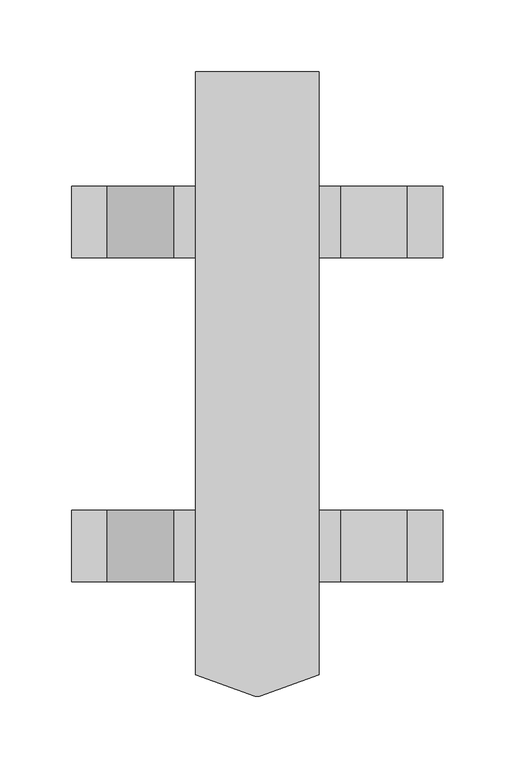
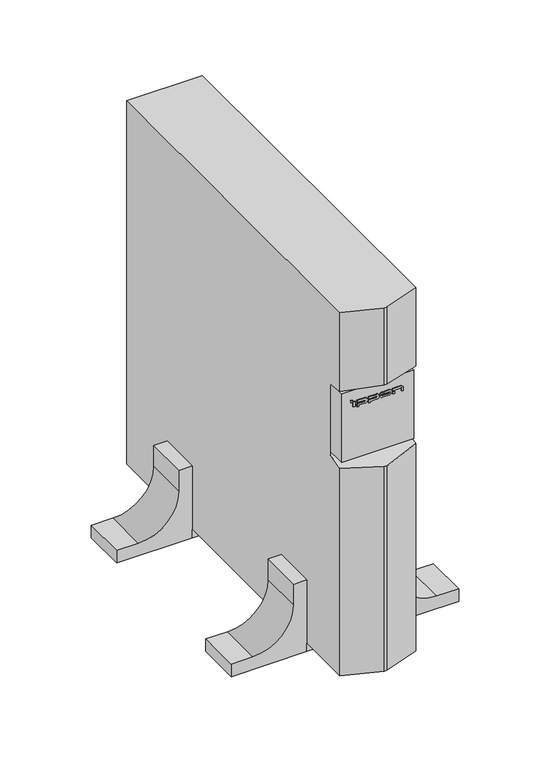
"""IFC4 building model written with IfcOpenShell, lengths in millimetres: proxy geometry, IPPON_EBM_Innova RT_1000_1500-2000_3000ВА : БМ Innova RT 1000 ВА."""

from ifc_helpers import new_model, si_unit, point, frame, frame_2d, origin, origin_with_axes, place, context, project, spatial, polyline, circle_curve, trimmed, segment, composite_curve, outline, extrude, faceted_brep, source, transform, mapped, element, save


def electrical_equipment_5258313d(model_context):
    return source(origin(), model_context, "Body", "SolidModel", [
        extrude(outline(polyline([(-29.1718133, 14.0), (-31.1718133, 14.0), (-31.1718133, 15.0), (-29.1718133, 15.0), (-29.1718133, 14.0)])), frame((0.0, 0.0, 335.7195835), z_axis=(0.0, 0.0, 1.0), x_axis=(1.0, 0.0, 0.0)), (0.0, 0.0, 1.0), 2.3),
        extrude(outline(polyline([(18.6035474, 14.0), (16.6035474, 14.0), (16.6035474, 15.0), (18.6035474, 15.0), (18.6035474, 14.0)])), frame((0.0, 0.0, 329.7195835), z_axis=(0.0, 0.0, 1.0), x_axis=(1.0, 0.0, 0.0)), (0.0, 0.0, 1.0), 2.2268231),
        extrude(outline(polyline([(-26.438565, 14.0), (-28.4833324, 14.0), (-28.4833324, 15.0), (-26.438565, 15.0), (-26.438565, 14.0)])), frame((0.0, 0.0, 329.7195835), z_axis=(0.0, 0.0, 1.0), x_axis=(1.0, 0.0, 0.0)), (0.0, 0.0, 1.0), 6.0),
        extrude(outline(composite_curve([segment(polyline([(333.4571435, -24.2241109), (333.4571435, -14.9923536)]), True, "CONTINUOUS"), segment(trimmed(circle_curve(frame_2d((332.6006642, -14.9923536)), 0.8564793), [point((333.4571435, -14.9923536))], [point((331.7441849, -14.9923536))], True, "CARTESIAN"), True, "CONTINUOUS"), segment(polyline([(331.7441849, -14.9923536), (331.7441849, -24.2241109), (328.2536803, -24.2241109), (328.2536803, -22.2241109), (329.7195835, -22.2241109), (329.7195835, -15.1486036)]), True, "CONTINUOUS"), segment(trimmed(circle_curve(frame_2d((332.7195835, -15.1486036)), 3.0), [point((329.7195835, -15.1486036))], [point((335.7195835, -15.1486036))], False, "CARTESIAN"), True, "CONTINUOUS"), segment(polyline([(335.7195835, -15.1486036), (335.7195835, -24.2241109), (333.4571435, -24.2241109)]), True, "CONTINUOUS")], self_intersect=False)), frame((0.0, 14.0, 0.0), z_axis=(0.0, 1.0, 0.0), x_axis=(0.0, 0.0, 1.0)), (0.0, 0.0, 1.0), 1.0),
        extrude(outline(composite_curve([segment(polyline([(333.4571435, -11.0171091), (333.4571435, -1.7853518)]), True, "CONTINUOUS"), segment(trimmed(circle_curve(frame_2d((332.6006642, -1.7853518)), 0.8564793), [point((333.4571435, -1.7853518))], [point((331.7441849, -1.7853518))], True, "CARTESIAN"), True, "CONTINUOUS"), segment(polyline([(331.7441849, -1.7853518), (331.7441849, -11.0171091), (328.2536803, -11.0171091), (328.2536803, -9.0171091), (329.7195835, -9.0171091), (329.7195835, -1.9416018)]), True, "CONTINUOUS"), segment(trimmed(circle_curve(frame_2d((332.7195835, -1.9416018)), 3.0), [point((329.7195835, -1.9416018))], [point((335.7195835, -1.9416018))], False, "CARTESIAN"), True, "CONTINUOUS"), segment(polyline([(335.7195835, -1.9416018), (335.7195835, -11.0171091), (333.4571435, -11.0171091)]), True, "CONTINUOUS")], self_intersect=False)), frame((0.0, 14.0, 0.0), z_axis=(0.0, 1.0, 0.0), x_axis=(0.0, 0.0, 1.0)), (0.0, 0.0, 1.0), 1.0),
        extrude(outline(composite_curve([segment(trimmed(circle_curve(frame_2d((332.7195835, 12.558657)), 3.0), [point((329.7195835, 12.558657))], [point((335.7195835, 12.558657))], False, "CARTESIAN"), True, "CONTINUOUS"), segment(polyline([(335.7195835, 12.558657), (335.7195835, 4.958657)]), True, "CONTINUOUS"), segment(trimmed(circle_curve(frame_2d((332.7195835, 4.958657)), 3.0), [point((335.7195835, 4.958657))], [point((329.7195835, 4.958657))], False, "CARTESIAN"), True, "CONTINUOUS"), segment(polyline([(329.7195835, 4.958657), (329.7195835, 12.558657)]), True, "CONTINUOUS")], self_intersect=False), holes=[composite_curve([segment(polyline([(331.7441849, 12.714907), (331.7441849, 4.802407)]), True, "CONTINUOUS"), segment(trimmed(circle_curve(frame_2d((332.6006642, 4.802407)), 0.8564793), [point((331.7441849, 4.802407))], [point((333.4571435, 4.802407))], True, "CARTESIAN"), True, "CONTINUOUS"), segment(polyline([(333.4571435, 4.802407), (333.4571435, 12.714907)]), True, "CONTINUOUS"), segment(trimmed(circle_curve(frame_2d((332.6006642, 12.714907)), 0.8564793), [point((333.4571435, 12.714907))], [point((331.7441849, 12.714907))], True, "CARTESIAN"), True, "CONTINUOUS")], self_intersect=False)]), frame((0.0, 14.0, 0.0), z_axis=(0.0, 1.0, 0.0), x_axis=(0.0, 0.0, 1.0)), (0.0, 0.0, 1.0), 1.0),
        extrude(outline(composite_curve([segment(polyline([(333.4571435, 16.6035474), (333.4571435, 25.8353046)]), True, "CONTINUOUS"), segment(trimmed(circle_curve(frame_2d((332.6006642, 25.8353046)), 0.8564793), [point((333.4571435, 25.8353046))], [point((332.6006642, 26.6917839))], True, "CARTESIAN"), True, "CONTINUOUS"), segment(polyline([(332.6006642, 26.6917839), (329.7195835, 26.6917839), (329.7195835, 28.6317921), (333.25, 28.6317921)]), True, "CONTINUOUS"), segment(trimmed(circle_curve(frame_2d((332.7195835, 25.6790546)), 3.0), [point((333.25, 28.6317921))], [point((335.7195835, 25.6790546))], False, "CARTESIAN"), True, "CONTINUOUS"), segment(polyline([(335.7195835, 25.6790546), (335.7195835, 16.6035474), (333.4571435, 16.6035474)]), True, "CONTINUOUS")], self_intersect=False)), frame((0.0, 14.0, 0.0), z_axis=(0.0, 1.0, 0.0), x_axis=(0.0, 0.0, 1.0)), (0.0, 0.0, 1.0), 1.0),
        extrude(outline(polyline([(-43.25, 356.0), (43.25, 356.0), (43.25, 306.0), (-43.25, 306.0), (-43.25, 356.0)])), origin_with_axes(), (0.0, 0.0, 1.0), 10.0),
        extrude(outline(polyline([(43.25, 80.0), (-43.25, 80.0), (-43.25, 130.0), (43.25, 130.0), (43.25, 80.0)])), origin_with_axes(), (0.0, 0.0, 1.0), 10.0),
        extrude(outline(composite_curve([segment(polyline([(0.0, -43.25), (86.5, -43.25), (86.5, -58.25), (61.5, -58.25)]), True, "CONTINUOUS"), segment(trimmed(circle_curve(frame_2d((61.5, -104.75)), 46.5), [point((61.5, -58.25))], [point((15.0, -104.75))], True, "CARTESIAN"), True, "CONTINUOUS"), segment(polyline([(15.0, -104.75), (15.0, -129.75), (0.0, -129.75), (0.0, -43.25)]), True, "CONTINUOUS")], self_intersect=False)), frame((0.0, 306.0, 0.0), z_axis=(0.0, 1.0, 0.0), x_axis=(0.0, 0.0, 1.0)), (0.0, 0.0, 1.0), 50.0),
        extrude(outline(composite_curve([segment(polyline([(0.0, -43.25), (86.5, -43.25), (86.5, -58.25), (61.5, -58.25)]), True, "CONTINUOUS"), segment(trimmed(circle_curve(frame_2d((61.5, -104.75)), 46.5), [point((61.5, -58.25))], [point((15.0, -104.75))], True, "CARTESIAN"), True, "CONTINUOUS"), segment(polyline([(15.0, -104.75), (15.0, -129.75), (0.0, -129.75), (0.0, -43.25)]), True, "CONTINUOUS")], self_intersect=False)), frame((0.0, 80.0, 0.0), z_axis=(0.0, 1.0, 0.0), x_axis=(0.0, 0.0, 1.0)), (0.0, 0.0, 1.0), 50.0),
        extrude(outline(composite_curve([segment(polyline([(0.0, 129.75), (15.0, 129.75), (15.0, 104.75)]), True, "CONTINUOUS"), segment(trimmed(circle_curve(frame_2d((61.5, 104.75)), 46.5), [point((15.0, 104.75))], [point((61.5, 58.25))], True, "CARTESIAN"), True, "CONTINUOUS"), segment(polyline([(61.5, 58.25), (86.5, 58.25), (86.5, 43.25), (0.0, 43.25), (0.0, 129.75)]), True, "CONTINUOUS")], self_intersect=False)), frame((0.0, 306.0, 0.0), z_axis=(0.0, 1.0, 0.0), x_axis=(0.0, 0.0, 1.0)), (0.0, 0.0, 1.0), 50.0),
        extrude(outline(composite_curve([segment(polyline([(0.0, 43.25), (0.0, 129.75), (15.0, 129.75), (15.0, 104.75)]), True, "CONTINUOUS"), segment(trimmed(circle_curve(frame_2d((61.5, 104.75)), 46.5), [point((15.0, 104.75))], [point((61.5, 58.25))], True, "CARTESIAN"), True, "CONTINUOUS"), segment(polyline([(61.5, 58.25), (86.5, 58.25), (86.5, 43.25), (0.0, 43.25)]), True, "CONTINUOUS")], self_intersect=False)), frame((0.0, 80.0, 0.0), z_axis=(0.0, 1.0, 0.0), x_axis=(0.0, 0.0, 1.0)), (0.0, 0.0, 1.0), 50.0),
        extrude(outline(polyline([(41.25, 15.0), (-41.25, 15.0), (-41.25, 43.0), (41.25, 43.0), (41.25, 15.0)])), frame((0.0, 0.0, 266.75), z_axis=(0.0, 0.0, 1.0), x_axis=(1.0, 0.0, 0.0)), (0.0, 0.0, 1.0), 82.5),
        faceted_brep([(1.5, 0.0, 448.0), (-1.5, 0.0, 448.0), (-1.5, 0.0, 355.25), (1.5, 0.0, 355.25), (-1.5, 0.0, 10.0), (1.5, 0.0, 10.0), (1.5, 0.0, 256.75), (-1.5, 0.0, 256.75), (43.25, 15.0, 10.0), (43.25, 15.0, 260.2383721), (43.25, 15.0, 448.0), (43.25, 15.0, 353.1569767), (43.25, 436.0, 448.0), (-43.25, 436.0, 448.0), (-43.25, 15.0, 448.0), (-43.25, 15.0, 353.1569767), (-43.25, 15.0, 10.0), (-43.25, 15.0, 260.2383721), (-43.25, 436.0, 10.0), (43.25, 436.0, 10.0), (41.25, 43.0, 349.25), (-41.25, 43.0, 349.25), (-41.25, 43.0, 266.75), (41.25, 43.0, 266.75), (43.25, 34.4, 264.75), (43.25, 34.4, 350.45), (-43.25, 34.4, 264.75), (-43.25, 34.4, 350.45)], [[[0, 1, 2, 3]], [[4, 5, 6, 7]], [[5, 8, 9, 6]], [[10, 0, 3, 11]], [[1, 0, 10, 12, 13, 14]], [[1, 14, 15, 2]], [[16, 4, 7, 17]], [[5, 4, 16, 18, 19, 8]], [[20, 21, 22, 23]], [[20, 23, 24, 25]], [[23, 22, 26, 17, 7, 6, 9, 24]], [[22, 21, 27, 26]], [[21, 20, 25, 11, 3, 2, 15, 27]], [[12, 19, 18, 13]], [[13, 18, 16, 17, 26, 27, 15, 14]], [[19, 12, 10, 11, 25, 24, 9, 8]]]),
    ])


if __name__ == "__main__":
    model = new_model("IFC4")
    model_context = context("Model", 3, world=origin())
    ifc_project = project(units=[si_unit("LENGTHUNIT", "METRE", prefix="MILLI")], contexts=[model_context])
    site = spatial("IfcSite", under=ifc_project)
    building = spatial("IfcBuilding", under=site)
    placement = place(None, origin())
    electrical_equipment_shape = electrical_equipment_5258313d(model_context)
    element("IfcBuildingElementProxy", 1, Name="IPPON_EBM_Innova RT_1000_1500-2000_3000ВА : БМ Innova RT 1000 ВА", ObjectType="IPPON_EBM_Innova RT_1000_1500-2000_3000ВА : БМ Innova RT 1000 ВА", at=placement, inside=building, context=model_context, shape_type="MappedRepresentation", body=[
        mapped(electrical_equipment_shape, transform((0.0, 0.0, 0.0), x_axis=(1.0, 0.0, 0.0), y_axis=(0.0, 1.0, 0.0), z_axis=(0.0, 0.0, 1.0))),
    ])
    save(model, "model.ifc")
